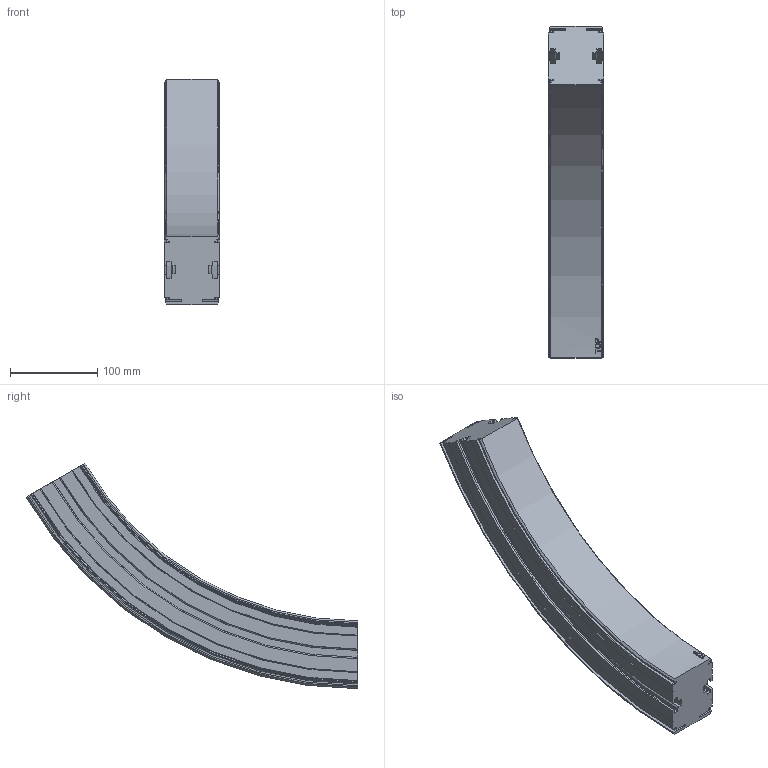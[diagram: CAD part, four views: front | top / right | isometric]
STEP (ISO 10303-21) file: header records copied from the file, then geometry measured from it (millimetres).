
FILE_DESCRIPTION(/* description */ ('VERTIKALKURVA S620 R400'),/* implementation_level */ '2;1');
FILE_NAME(/* name */ '\\carryline.intra\privat\users\mathias\Desktop\Tillfälliga filer\620-5645+620-2000-UPP-01.stp',/* time_stamp */ '2018-12-05T16:05:47+01:00',/* author */ ('MD'),/* organization */ ('CARRYLINE'),/* preprocessor_version */ 'ST-DEVELOPER v17',/* originating_system */ 'Autodesk Inventor 2018',/* authorisation */ '');
FILE_SCHEMA (('AUTOMOTIVE_DESIGN { 1 0 10303 214 3 1 1 }'));
Length unit declared in the file: millimetre
Products named in the file (1): 620-5645+620-2000-UPP-01
Bounding box: 64 x 381.05 x 259 mm (x, y, z)
Volume: 1872178.9 mm3; surface area: 213092.3 mm2
Topology: 1 solids, 1 shells, 149 faces, 426 edges, 284 vertices
Faces by surface type: plane 54, cylinder 37, torus 28, cone 16, bspline 14
Entity records: 9533 total; most frequent: CARTESIAN_POINT 5513, ORIENTED_EDGE 852, DIRECTION 836, EDGE_CURVE 426, AXIS2_PLACEMENT_3D 315, VERTEX_POINT 284, LINE 206, VECTOR 206
